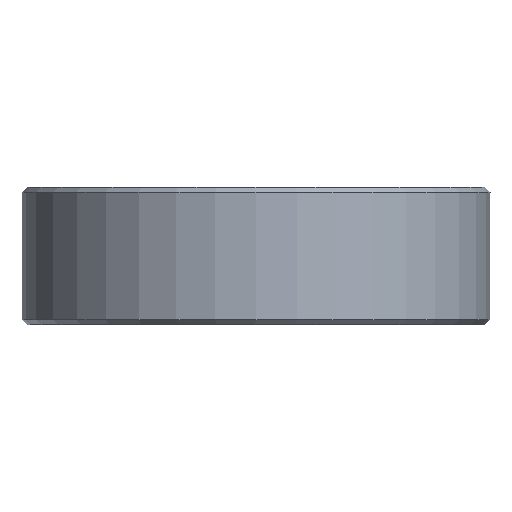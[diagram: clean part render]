
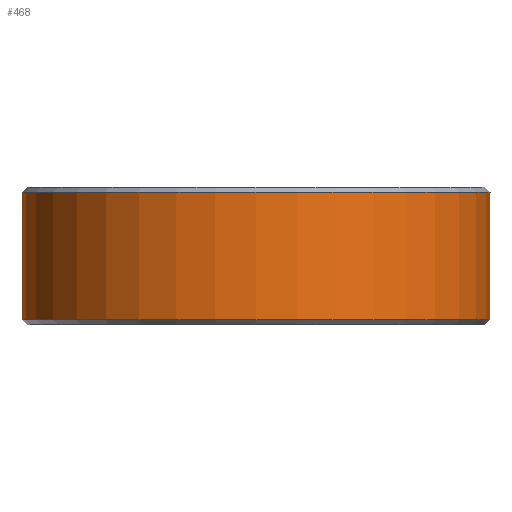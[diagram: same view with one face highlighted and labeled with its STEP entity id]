
A CAD part, front view. The second image highlights one B-rep face of the part: STEP entity #468.
In plain terms, the highlighted cylindrical face has radius 90 mm (diameter 180 mm), a partial arc.
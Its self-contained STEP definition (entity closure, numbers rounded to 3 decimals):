
#33 = CIRCLE ( 'NONE', #328, 90. ) ;
#88 = LINE ( 'NONE', #223, #726 ) ;
#203 = DIRECTION ( 'NONE',  ( -1., 0., 0. ) ) ;
#223 = CARTESIAN_POINT ( 'NONE',  ( -90., 0., 0. ) ) ;
#225 = VERTEX_POINT ( 'NONE', #1097 ) ;
#231 = DIRECTION ( 'NONE',  ( 0., 0., 1. ) ) ;
#285 = DIRECTION ( 'NONE',  ( 0., 0., -1. ) ) ;
#328 = AXIS2_PLACEMENT_3D ( 'NONE', #923, #231, #542 ) ;
#347 = ORIENTED_EDGE ( 'NONE', *, *, #1248, .T. ) ;
#407 = VERTEX_POINT ( 'NONE', #1848 ) ;
#468 = ADVANCED_FACE ( 'NONE', ( #1857 ), #2023, .T. ) ;
#480 = ORIENTED_EDGE ( 'NONE', *, *, #1172, .F. ) ;
#542 = DIRECTION ( 'NONE',  ( 1., 0., 0. ) ) ;
#559 = CARTESIAN_POINT ( 'NONE',  ( 90., 0., 51. ) ) ;
#596 = EDGE_LOOP ( 'NONE', ( #480, #347, #1247, #2089 ) ) ;
#599 = CARTESIAN_POINT ( 'NONE',  ( 0., 0., 0. ) ) ;
#607 = DIRECTION ( 'NONE',  ( 0., 0., -1. ) ) ;
#630 = AXIS2_PLACEMENT_3D ( 'NONE', #734, #758, #203 ) ;
#655 = VECTOR ( 'NONE', #693, 1000. ) ;
#693 = DIRECTION ( 'NONE',  ( 0., 0., -1. ) ) ;
#726 = VECTOR ( 'NONE', #607, 1000. ) ;
#734 = CARTESIAN_POINT ( 'NONE',  ( 0., 0., 51. ) ) ;
#758 = DIRECTION ( 'NONE',  ( 0., 0., -1. ) ) ;
#923 = CARTESIAN_POINT ( 'NONE',  ( 0., 0., 2. ) ) ;
#1027 = AXIS2_PLACEMENT_3D ( 'NONE', #599, #285, #1119 ) ;
#1091 = EDGE_CURVE ( 'NONE', #1331, #225, #88, .T. ) ;
#1097 = CARTESIAN_POINT ( 'NONE',  ( -90., 0., 2. ) ) ;
#1119 = DIRECTION ( 'NONE',  ( -1., 0., 0. ) ) ;
#1172 = EDGE_CURVE ( 'NONE', #2036, #407, #1366, .T. ) ;
#1241 = EDGE_CURVE ( 'NONE', #225, #407, #33, .T. ) ;
#1247 = ORIENTED_EDGE ( 'NONE', *, *, #1091, .T. ) ;
#1248 = EDGE_CURVE ( 'NONE', #2036, #1331, #1621, .T. ) ;
#1331 = VERTEX_POINT ( 'NONE', #1770 ) ;
#1366 = LINE ( 'NONE', #1375, #655 ) ;
#1375 = CARTESIAN_POINT ( 'NONE',  ( 90., 0., 0. ) ) ;
#1621 = CIRCLE ( 'NONE', #630, 90. ) ;
#1770 = CARTESIAN_POINT ( 'NONE',  ( -90., 0., 51. ) ) ;
#1848 = CARTESIAN_POINT ( 'NONE',  ( 90., 0., 2. ) ) ;
#1857 = FACE_OUTER_BOUND ( 'NONE', #596, .T. ) ;
#2023 = CYLINDRICAL_SURFACE ( 'NONE', #1027, 90. ) ;
#2036 = VERTEX_POINT ( 'NONE', #559 ) ;
#2089 = ORIENTED_EDGE ( 'NONE', *, *, #1241, .T. ) ;
